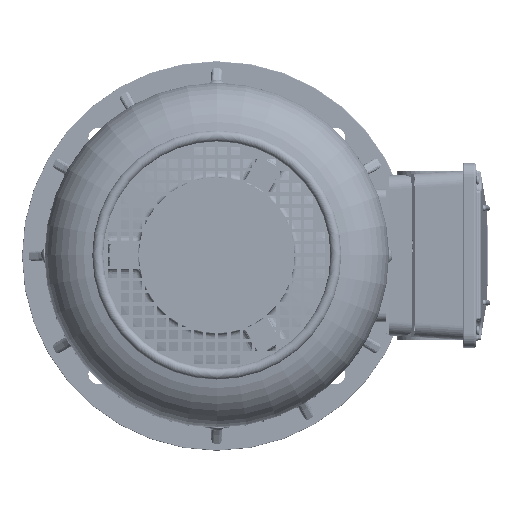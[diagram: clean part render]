
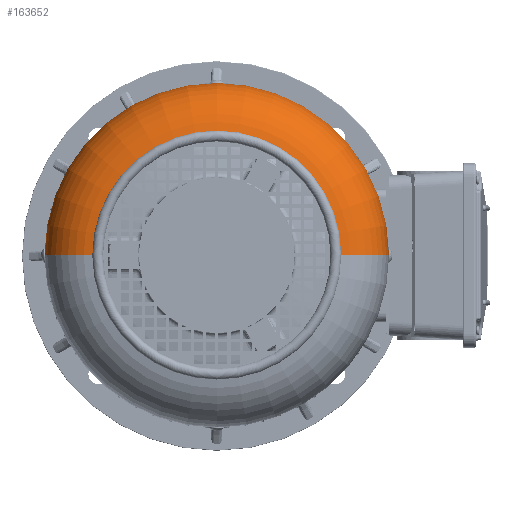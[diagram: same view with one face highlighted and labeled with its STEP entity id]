
A CAD part, top view. The second image highlights one B-rep face of the part: STEP entity #163652.
In plain terms, the highlighted toroidal (fillet/blend) face has major radius 104.7 mm and minor radius 50 mm.
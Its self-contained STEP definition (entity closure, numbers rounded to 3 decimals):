
#15865 = ORIENTED_EDGE ( 'NONE', *, *, #77666, .F. ) ;
#16100 = DIRECTION ( 'NONE',  ( 0., 1., 0. ) ) ;
#23563 = CIRCLE ( 'NONE', #75798, 50. ) ;
#26387 = EDGE_CURVE ( 'NONE', #42663, #96578, #23563, .T. ) ;
#30842 = CARTESIAN_POINT ( 'NONE',  ( 82.714, 0., 0. ) ) ;
#38703 = CARTESIAN_POINT ( 'NONE',  ( 82.714, 0., 104.7 ) ) ;
#42663 = VERTEX_POINT ( 'NONE', #118562 ) ;
#49277 = DIRECTION ( 'NONE',  ( 0., 0., 1. ) ) ;
#49823 = AXIS2_PLACEMENT_3D ( 'NONE', #126382, #16100, #144804 ) ;
#53393 = AXIS2_PLACEMENT_3D ( 'NONE', #30842, #159623, #49277 ) ;
#57194 = DIRECTION ( 'NONE',  ( 0., 0., -1. ) ) ;
#68936 = EDGE_CURVE ( 'NONE', #42663, #138385, #80086, .T. ) ;
#71800 = CARTESIAN_POINT ( 'NONE',  ( 132.2, 0., -111.854 ) ) ;
#75798 = AXIS2_PLACEMENT_3D ( 'NONE', #38703, #167471, #57194 ) ;
#77666 = EDGE_CURVE ( 'NONE', #96578, #112947, #196284, .T. ) ;
#80086 = CIRCLE ( 'NONE', #174292, 111.854 ) ;
#82441 = DIRECTION ( 'NONE',  ( -1., 0., 0. ) ) ;
#86941 = EDGE_CURVE ( 'NONE', #138385, #112947, #115077, .T. ) ;
#92839 = EDGE_LOOP ( 'NONE', ( #142389, #227665, #15865, #231604 ) ) ;
#93034 = CARTESIAN_POINT ( 'NONE',  ( 82.714, 0., -154.7 ) ) ;
#96578 = VERTEX_POINT ( 'NONE', #111210 ) ;
#99473 = DIRECTION ( 'NONE',  ( -1., 0., 0. ) ) ;
#100967 = CARTESIAN_POINT ( 'NONE',  ( 82.714, 0., 0. ) ) ;
#111210 = CARTESIAN_POINT ( 'NONE',  ( 82.714, 0., 154.7 ) ) ;
#112947 = VERTEX_POINT ( 'NONE', #93034 ) ;
#115077 = CIRCLE ( 'NONE', #49823, 50. ) ;
#118562 = CARTESIAN_POINT ( 'NONE',  ( 132.2, 0., 111.854 ) ) ;
#126382 = CARTESIAN_POINT ( 'NONE',  ( 82.714, 0., -104.7 ) ) ;
#135123 = TOROIDAL_SURFACE ( 'NONE', #238527, 104.7, 50. ) ;
#138385 = VERTEX_POINT ( 'NONE', #71800 ) ;
#142389 = ORIENTED_EDGE ( 'NONE', *, *, #68936, .T. ) ;
#144804 = DIRECTION ( 'NONE',  ( 0., 0., 1. ) ) ;
#159623 = DIRECTION ( 'NONE',  ( -1., 0., 0. ) ) ;
#163652 = ADVANCED_FACE ( 'NONE', ( #232962 ), #135123, .T. ) ;
#167471 = DIRECTION ( 'NONE',  ( 0., -1., 0. ) ) ;
#174145 = DIRECTION ( 'NONE',  ( 0., 0., 1. ) ) ;
#174292 = AXIS2_PLACEMENT_3D ( 'NONE', #209701, #99473, #228212 ) ;
#196284 = CIRCLE ( 'NONE', #53393, 154.7 ) ;
#209701 = CARTESIAN_POINT ( 'NONE',  ( 132.2, 0., 0. ) ) ;
#227665 = ORIENTED_EDGE ( 'NONE', *, *, #86941, .T. ) ;
#228212 = DIRECTION ( 'NONE',  ( 0., 0., 1. ) ) ;
#231604 = ORIENTED_EDGE ( 'NONE', *, *, #26387, .F. ) ;
#232962 = FACE_OUTER_BOUND ( 'NONE', #92839, .T. ) ;
#238527 = AXIS2_PLACEMENT_3D ( 'NONE', #100967, #82441, #174145 ) ;
